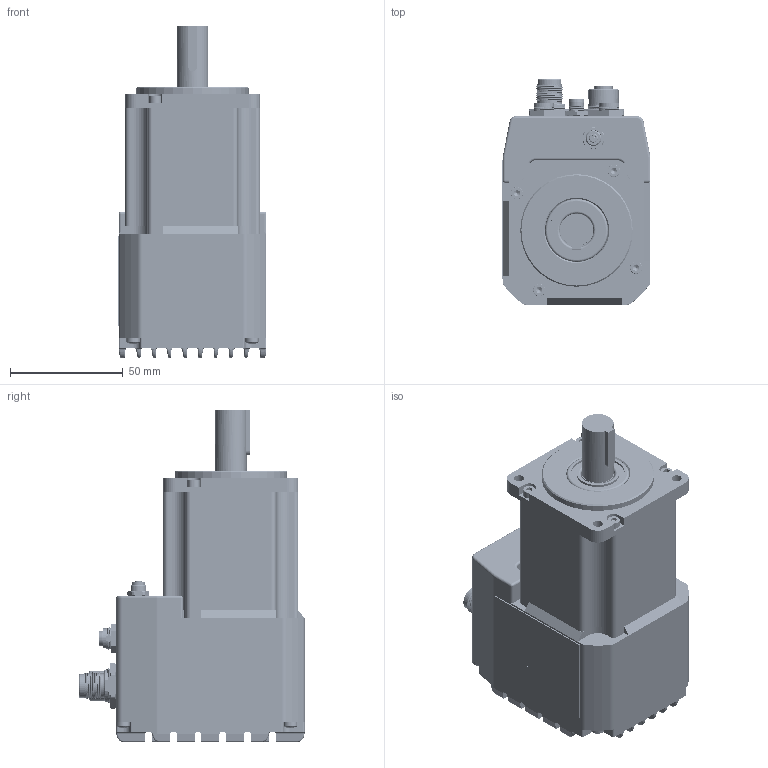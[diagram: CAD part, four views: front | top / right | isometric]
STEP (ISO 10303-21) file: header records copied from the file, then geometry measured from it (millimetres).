
FILE_DESCRIPTION(/* description */ ('Unknown'),/* implementation_level */ '2;1');
FILE_NAME(/* name */ 'DM5D2200x262Dx0',/* time_stamp */ '2026-03-11T13:54:43+01:00',/* author */ ('Unknown'),/* organization */ ('Unknown'),/* preprocessor_version */ 'ST-DEVELOPER v16.7',/* originating_system */ 'Solid Edge',/* authorisation */ 'Unknown');
FILE_SCHEMA (('AUTOMOTIVE_DESIGN {1 0 10303 214 3 1 1}'));
Products named in the file (27): DM5D2 con ISE03_motore 60mm; Guarnizione motore cover per DM4D2 con IMD12; Cover DM5D2 con ISE03_Motore 60mm; 8-04PMMS-SF7001; ghiera per 8-04PMMS-SF7001; Spezzata_M3; Gap-Pad DM5D2 con ISE03; M12L-05PMEC-SF8CXX-STP; ghiera per M12L-05PMEC-SF8CXX-STP; m12a-17pffs-sf8001; ghiera per M12A-17PFFS-SF8001; Ghiera per CDM506-04A-FT-F775-67; Dissipatore DM5D2 con ISE03_Motore 60mm; CDM506-04A-FT-F775-67; dentellata_M3; Etichetta; BIVAR__INC_PLPC2-4MM; Mica Isolante 1 per DM5D2 con ISE03; motore 200W con encoder_oa_0; Motore 200W; tcc_M3x06; BIVAR__INC_PLPC2-5MM; Mica Isolante 2 per DM5D2 con ISE03; Guarnizione Dissipatore Cover DM5D2 con ISE03_Motore 60mm; sm8-04pffs-sf8001; Ghiera per SM8-04PFFS-SF8001-STP; tcc_M3x08
Assembly tree (40 placements, depth 3):
  DM5D2 con ISE03_motore 60mm
    Guarnizione motore cover per DM4D2 con IMD12
    Cover DM5D2 con ISE03_Motore 60mm
    8-04PMMS-SF7001
    ghiera per 8-04PMMS-SF7001
    Spezzata_M3
    Gap-Pad DM5D2 con ISE03
    M12L-05PMEC-SF8CXX-STP
    ghiera per M12L-05PMEC-SF8CXX-STP
    m12a-17pffs-sf8001
    ghiera per M12A-17PFFS-SF8001
    Ghiera per CDM506-04A-FT-F775-67
    Dissipatore DM5D2 con ISE03_Motore 60mm
    CDM506-04A-FT-F775-67
    dentellata_M3
    Etichetta
    BIVAR__INC_PLPC2-4MM  x3
    Mica Isolante 1 per DM5D2 con ISE03
    motore 200W con encoder_oa_0
      Motore 200W
    tcc_M3x06  x5
    BIVAR__INC_PLPC2-5MM  x4
    Mica Isolante 2 per DM5D2 con ISE03
    Guarnizione Dissipatore Cover DM5D2 con ISE03_Motore 60mm
    sm8-04pffs-sf8001  x2
    Ghiera per SM8-04PFFS-SF8001-STP  x2
    tcc_M3x08  x4
Bounding box: 66.1 x 100.1 x 147.5 mm (x, y, z)
Volume: 220571.9 mm3; surface area: 132840.4 mm2
Topology: 42 solids, 44 shells, 5533 faces, 14699 edges, 9548 vertices
Faces by surface type: plane 2477, cylinder 1699, bspline 709, cone 345, torus 199, sphere 104
Full cylindrical faces by diameter (mm): 0.5 x4, 0.6 x4, 0.65 x17, 0.8 x42, 1 x12, 1.15 x17, 1.18 x17, 1.2 x10, 1.24 x17, 1.4 x4, 1.5 x8, 1.55 x13, 1.6 x11, 1.873 x7, 2 x7, 2.013 x3, 2.2 x1, 2.25 x3, 2.33 x1, 2.459 x10, 2.5 x15, 3 x17, 3.2 x5, 3.5 x1, 4.3 x1, 4.5 x4, 4.6 x1, 5.5 x9, 5.6 x2, 5.75 x3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
Entity records: 193171 total; most frequent: CARTESIAN_POINT 56551, ORIENTED_EDGE 23646, DIRECTION 20473, EDGE_CURVE 11823, VERTEX_POINT 7952, AXIS2_PLACEMENT_3D 7265, LINE 5943, VECTOR 5943
